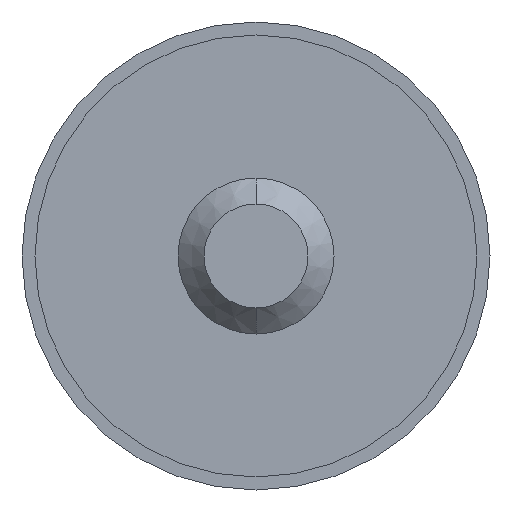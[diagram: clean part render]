
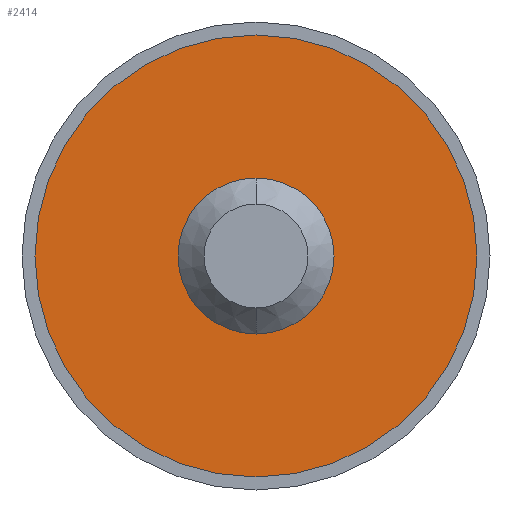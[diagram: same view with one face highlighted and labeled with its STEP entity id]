
A CAD part, front view. The second image highlights one B-rep face of the part: STEP entity #2414.
In plain terms, the highlighted planar face has unit normal (0, -1, 0).
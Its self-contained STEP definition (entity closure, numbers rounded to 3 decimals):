
#241 = CARTESIAN_POINT ( 'NONE',  ( 0., -0.5, 8.5 ) ) ;
#254 = EDGE_CURVE ( 'NONE', #1108, #737, #3762, .T. ) ;
#277 = VERTEX_POINT ( 'NONE', #977 ) ;
#421 = DIRECTION ( 'NONE',  ( 0., -1., 0. ) ) ;
#726 = EDGE_LOOP ( 'NONE', ( #2242, #2556 ) ) ;
#737 = VERTEX_POINT ( 'NONE', #241 ) ;
#746 = PLANE ( 'NONE',  #1664 ) ;
#977 = CARTESIAN_POINT ( 'NONE',  ( 0., -0.5, -3. ) ) ;
#1085 = FACE_BOUND ( 'NONE', #2305, .T. ) ;
#1108 = VERTEX_POINT ( 'NONE', #2250 ) ;
#1156 = ORIENTED_EDGE ( 'NONE', *, *, #1839, .F. ) ;
#1235 = CARTESIAN_POINT ( 'NONE',  ( 0., -0.5, 3. ) ) ;
#1242 = CIRCLE ( 'NONE', #2294, 8.5 ) ;
#1517 = AXIS2_PLACEMENT_3D ( 'NONE', #2218, #2537, #2845 ) ;
#1540 = VERTEX_POINT ( 'NONE', #1235 ) ;
#1541 = CIRCLE ( 'NONE', #1701, 3. ) ;
#1664 = AXIS2_PLACEMENT_3D ( 'NONE', #2854, #1673, #1988 ) ;
#1673 = DIRECTION ( 'NONE',  ( 0., 1., 0. ) ) ;
#1701 = AXIS2_PLACEMENT_3D ( 'NONE', #2859, #421, #2240 ) ;
#1839 = EDGE_CURVE ( 'NONE', #277, #1540, #3034, .T. ) ;
#1954 = FACE_OUTER_BOUND ( 'NONE', #726, .T. ) ;
#1988 = DIRECTION ( 'NONE',  ( 0., 0., 1. ) ) ;
#2014 = AXIS2_PLACEMENT_3D ( 'NONE', #2974, #3562, #3242 ) ;
#2218 = CARTESIAN_POINT ( 'NONE',  ( 0., -0.5, 0. ) ) ;
#2240 = DIRECTION ( 'NONE',  ( 0., 0., -1. ) ) ;
#2242 = ORIENTED_EDGE ( 'NONE', *, *, #3627, .F. ) ;
#2250 = CARTESIAN_POINT ( 'NONE',  ( 0., -0.5, -8.5 ) ) ;
#2256 = DIRECTION ( 'NONE',  ( 0., 1., 0. ) ) ;
#2294 = AXIS2_PLACEMENT_3D ( 'NONE', #3756, #2256, #2559 ) ;
#2297 = ORIENTED_EDGE ( 'NONE', *, *, #3600, .F. ) ;
#2305 = EDGE_LOOP ( 'NONE', ( #2297, #1156 ) ) ;
#2414 = ADVANCED_FACE ( 'NONE', ( #1085, #1954 ), #746, .F. ) ;
#2537 = DIRECTION ( 'NONE',  ( 0., 1., 0. ) ) ;
#2556 = ORIENTED_EDGE ( 'NONE', *, *, #254, .F. ) ;
#2559 = DIRECTION ( 'NONE',  ( 0., 0., 1. ) ) ;
#2845 = DIRECTION ( 'NONE',  ( 0., 0., 1. ) ) ;
#2854 = CARTESIAN_POINT ( 'NONE',  ( 0., -0.5, 0. ) ) ;
#2859 = CARTESIAN_POINT ( 'NONE',  ( 0., -0.5, 0. ) ) ;
#2974 = CARTESIAN_POINT ( 'NONE',  ( 0., -0.5, 0. ) ) ;
#3034 = CIRCLE ( 'NONE', #2014, 3. ) ;
#3242 = DIRECTION ( 'NONE',  ( 0., 0., -1. ) ) ;
#3562 = DIRECTION ( 'NONE',  ( 0., -1., 0. ) ) ;
#3600 = EDGE_CURVE ( 'NONE', #1540, #277, #1541, .T. ) ;
#3627 = EDGE_CURVE ( 'NONE', #737, #1108, #1242, .T. ) ;
#3756 = CARTESIAN_POINT ( 'NONE',  ( 0., -0.5, 0. ) ) ;
#3762 = CIRCLE ( 'NONE', #1517, 8.5 ) ;
